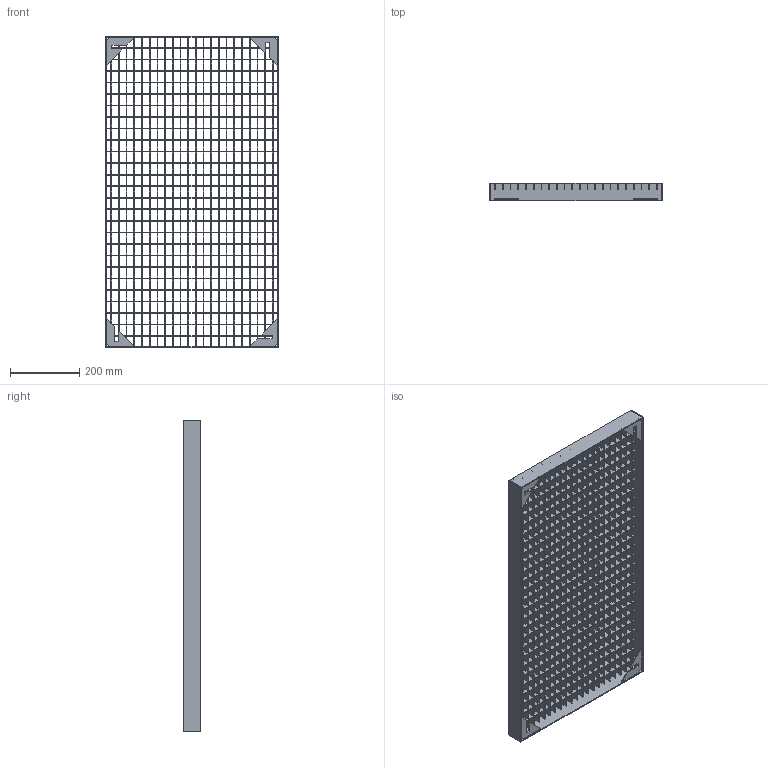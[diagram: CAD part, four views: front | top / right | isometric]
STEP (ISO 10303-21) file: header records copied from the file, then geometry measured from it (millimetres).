
FILE_DESCRIPTION (( 'STEP AP203' ), '1' );
FILE_NAME ('11012509G_Trinrist_500x900_20x30_20x2_mm_.STEP', '2014-12-19T11:07:46', ( '' ), ( '' ), 'SwSTEP 2.0', 'SolidWorks 2013', '' );
FILE_SCHEMA (( 'CONFIG_CONTROL_DESIGN' ));
Length unit declared in the file: millimetre
Products named in the file (6): 11012509G_Tvaerstav_20x2x894_mm_; 11012509G_Kantstaal_50x3x494_mm_; 11012509G_Kantstaal_50x3x900_mm_; 11012509G_Hjoernebeslag_80x80x3_mm_; 11012509G_Trinrist_500x900_20x30_20x2_mm_; 11012509G_Ribbe_20x2x494_mm_
Assembly tree (56 placements, depth 2):
  11012509G_Trinrist_500x900_20x30_20x2_mm_
    11012509G_Ribbe_20x2x494_mm_  x26
    11012509G_Tvaerstav_20x2x894_mm_  x22
    11012509G_Kantstaal_50x3x494_mm_  x2
    11012509G_Kantstaal_50x3x900_mm_  x2
    11012509G_Hjoernebeslag_80x80x3_mm_  x4
Bounding box: 500 x 50 x 900 mm (x, y, z)
Volume: 1706944.9 mm3; surface area: 1757886.2 mm2
Topology: 56 solids, 56 shells, 4928 faces, 14448 edges, 9632 vertices
Faces by surface type: plane 4928
Entity records: 9496 total; most frequent: CARTESIAN_POINT 1365, ORIENTED_EDGE 1296, DIRECTION 1218, EDGE_CURVE 648, VECTOR 648, LINE 648, VERTEX_POINT 432, AXIS2_PLACEMENT_3D 285
